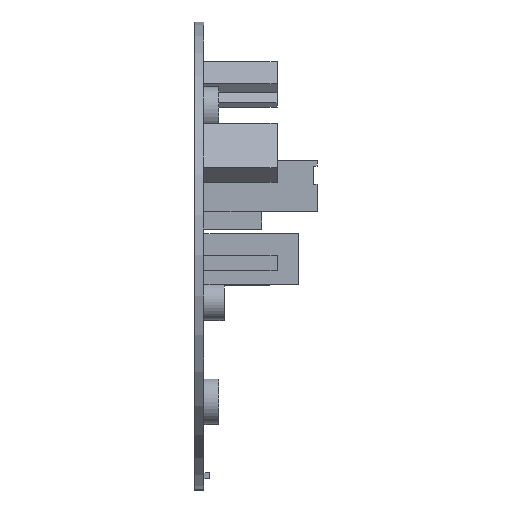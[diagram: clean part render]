
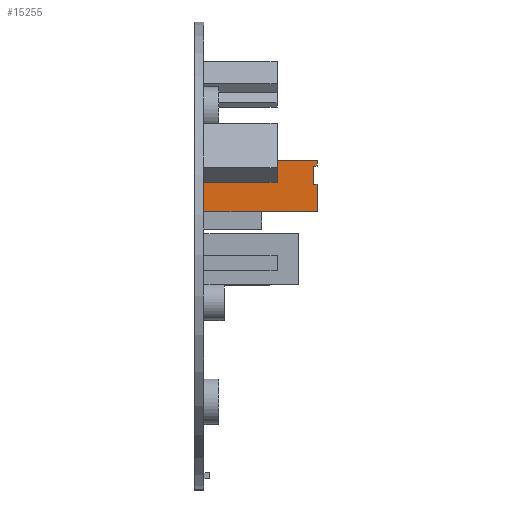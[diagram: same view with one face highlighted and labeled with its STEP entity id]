
A CAD part, top view. The second image highlights one B-rep face of the part: STEP entity #15255.
In plain terms, the highlighted planar face has unit normal (0, 0, 1).
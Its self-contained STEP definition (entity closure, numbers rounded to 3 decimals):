
#15066 = VERTEX_POINT('',#15067);
#15067 = CARTESIAN_POINT('',(0.75,38.,46.6));
#15074 = PLANE('',#15075);
#15075 = AXIS2_PLACEMENT_3D('',#15076,#15077,#15078);
#15076 = CARTESIAN_POINT('',(0.75,38.,44.));
#15077 = DIRECTION('',(1.,0.,0.));
#15078 = DIRECTION('',(0.,0.,1.));
#15086 = PLANE('',#15087);
#15087 = AXIS2_PLACEMENT_3D('',#15088,#15089,#15090);
#15088 = CARTESIAN_POINT('',(0.75,38.,44.));
#15089 = DIRECTION('',(0.,1.,0.));
#15090 = DIRECTION('',(0.,0.,1.));
#15127 = VERTEX_POINT('',#15128);
#15128 = CARTESIAN_POINT('',(0.75,45.,46.6));
#15142 = PLANE('',#15143);
#15143 = AXIS2_PLACEMENT_3D('',#15144,#15145,#15146);
#15144 = CARTESIAN_POINT('',(0.75,45.,44.));
#15145 = DIRECTION('',(0.,1.,0.));
#15146 = DIRECTION('',(0.,0.,1.));
#15154 = EDGE_CURVE('',#15066,#15127,#15155,.T.);
#15155 = SURFACE_CURVE('',#15156,(#15160,#15167),.PCURVE_S1.);
#15156 = LINE('',#15157,#15158);
#15157 = CARTESIAN_POINT('',(0.75,38.,46.6));
#15158 = VECTOR('',#15159,1.);
#15159 = DIRECTION('',(0.,1.,0.));
#15160 = PCURVE('',#15074,#15161);
#15161 = DEFINITIONAL_REPRESENTATION('',(#15162),#15166);
#15162 = LINE('',#15163,#15164);
#15163 = CARTESIAN_POINT('',(2.6,0.));
#15164 = VECTOR('',#15165,1.);
#15165 = DIRECTION('',(0.,-1.));
#15166 = ( GEOMETRIC_REPRESENTATION_CONTEXT(2) 
PARAMETRIC_REPRESENTATION_CONTEXT() REPRESENTATION_CONTEXT('2D SPACE',''
  ) );
#15167 = PCURVE('',#15168,#15173);
#15168 = PLANE('',#15169);
#15169 = AXIS2_PLACEMENT_3D('',#15170,#15171,#15172);
#15170 = CARTESIAN_POINT('',(0.75,38.,46.6));
#15171 = DIRECTION('',(0.,0.,1.));
#15172 = DIRECTION('',(1.,0.,0.));
#15173 = DEFINITIONAL_REPRESENTATION('',(#15174),#15178);
#15174 = LINE('',#15175,#15176);
#15175 = CARTESIAN_POINT('',(0.,0.));
#15176 = VECTOR('',#15177,1.);
#15177 = DIRECTION('',(0.,1.));
#15178 = ( GEOMETRIC_REPRESENTATION_CONTEXT(2) 
PARAMETRIC_REPRESENTATION_CONTEXT() REPRESENTATION_CONTEXT('2D SPACE',''
  ) );
#15207 = EDGE_CURVE('',#15066,#15208,#15210,.T.);
#15208 = VERTEX_POINT('',#15209);
#15209 = CARTESIAN_POINT('',(16.25,38.,46.6));
#15210 = SURFACE_CURVE('',#15211,(#15215,#15222),.PCURVE_S1.);
#15211 = LINE('',#15212,#15213);
#15212 = CARTESIAN_POINT('',(0.75,38.,46.6));
#15213 = VECTOR('',#15214,1.);
#15214 = DIRECTION('',(1.,0.,0.));
#15215 = PCURVE('',#15086,#15216);
#15216 = DEFINITIONAL_REPRESENTATION('',(#15217),#15221);
#15217 = LINE('',#15218,#15219);
#15218 = CARTESIAN_POINT('',(2.6,0.));
#15219 = VECTOR('',#15220,1.);
#15220 = DIRECTION('',(0.,1.));
#15221 = ( GEOMETRIC_REPRESENTATION_CONTEXT(2) 
PARAMETRIC_REPRESENTATION_CONTEXT() REPRESENTATION_CONTEXT('2D SPACE',''
  ) );
#15222 = PCURVE('',#15168,#15223);
#15223 = DEFINITIONAL_REPRESENTATION('',(#15224),#15228);
#15224 = LINE('',#15225,#15226);
#15225 = CARTESIAN_POINT('',(0.,0.));
#15226 = VECTOR('',#15227,1.);
#15227 = DIRECTION('',(1.,0.));
#15228 = ( GEOMETRIC_REPRESENTATION_CONTEXT(2) 
PARAMETRIC_REPRESENTATION_CONTEXT() REPRESENTATION_CONTEXT('2D SPACE',''
  ) );
#15244 = PLANE('',#15245);
#15245 = AXIS2_PLACEMENT_3D('',#15246,#15247,#15248);
#15246 = CARTESIAN_POINT('',(16.25,38.,44.));
#15247 = DIRECTION('',(1.,0.,0.));
#15248 = DIRECTION('',(0.,0.,1.));
#15255 = ADVANCED_FACE('',(#15256),#15168,.T.);
#15256 = FACE_BOUND('',#15257,.T.);
#15257 = EDGE_LOOP('',(#15258,#15281,#15282,#15283,#15306,#15332,#15358,
    #15384));
#15258 = ORIENTED_EDGE('',*,*,#15259,.F.);
#15259 = EDGE_CURVE('',#15127,#15260,#15262,.T.);
#15260 = VERTEX_POINT('',#15261);
#15261 = CARTESIAN_POINT('',(16.25,45.,46.6));
#15262 = SURFACE_CURVE('',#15263,(#15267,#15274),.PCURVE_S1.);
#15263 = LINE('',#15264,#15265);
#15264 = CARTESIAN_POINT('',(0.75,45.,46.6));
#15265 = VECTOR('',#15266,1.);
#15266 = DIRECTION('',(1.,0.,0.));
#15267 = PCURVE('',#15168,#15268);
#15268 = DEFINITIONAL_REPRESENTATION('',(#15269),#15273);
#15269 = LINE('',#15270,#15271);
#15270 = CARTESIAN_POINT('',(0.,7.));
#15271 = VECTOR('',#15272,1.);
#15272 = DIRECTION('',(1.,0.));
#15273 = ( GEOMETRIC_REPRESENTATION_CONTEXT(2) 
PARAMETRIC_REPRESENTATION_CONTEXT() REPRESENTATION_CONTEXT('2D SPACE',''
  ) );
#15274 = PCURVE('',#15142,#15275);
#15275 = DEFINITIONAL_REPRESENTATION('',(#15276),#15280);
#15276 = LINE('',#15277,#15278);
#15277 = CARTESIAN_POINT('',(2.6,0.));
#15278 = VECTOR('',#15279,1.);
#15279 = DIRECTION('',(0.,1.));
#15280 = ( GEOMETRIC_REPRESENTATION_CONTEXT(2) 
PARAMETRIC_REPRESENTATION_CONTEXT() REPRESENTATION_CONTEXT('2D SPACE',''
  ) );
#15281 = ORIENTED_EDGE('',*,*,#15154,.F.);
#15282 = ORIENTED_EDGE('',*,*,#15207,.T.);
#15283 = ORIENTED_EDGE('',*,*,#15284,.T.);
#15284 = EDGE_CURVE('',#15208,#15285,#15287,.T.);
#15285 = VERTEX_POINT('',#15286);
#15286 = CARTESIAN_POINT('',(16.25,41.75,46.6));
#15287 = SURFACE_CURVE('',#15288,(#15292,#15299),.PCURVE_S1.);
#15288 = LINE('',#15289,#15290);
#15289 = CARTESIAN_POINT('',(16.25,38.,46.6));
#15290 = VECTOR('',#15291,1.);
#15291 = DIRECTION('',(0.,1.,0.));
#15292 = PCURVE('',#15168,#15293);
#15293 = DEFINITIONAL_REPRESENTATION('',(#15294),#15298);
#15294 = LINE('',#15295,#15296);
#15295 = CARTESIAN_POINT('',(15.5,0.));
#15296 = VECTOR('',#15297,1.);
#15297 = DIRECTION('',(0.,1.));
#15298 = ( GEOMETRIC_REPRESENTATION_CONTEXT(2) 
PARAMETRIC_REPRESENTATION_CONTEXT() REPRESENTATION_CONTEXT('2D SPACE',''
  ) );
#15299 = PCURVE('',#15244,#15300);
#15300 = DEFINITIONAL_REPRESENTATION('',(#15301),#15305);
#15301 = LINE('',#15302,#15303);
#15302 = CARTESIAN_POINT('',(2.6,0.));
#15303 = VECTOR('',#15304,1.);
#15304 = DIRECTION('',(0.,-1.));
#15305 = ( GEOMETRIC_REPRESENTATION_CONTEXT(2) 
PARAMETRIC_REPRESENTATION_CONTEXT() REPRESENTATION_CONTEXT('2D SPACE',''
  ) );
#15306 = ORIENTED_EDGE('',*,*,#15307,.T.);
#15307 = EDGE_CURVE('',#15285,#15308,#15310,.T.);
#15308 = VERTEX_POINT('',#15309);
#15309 = CARTESIAN_POINT('',(15.75,41.75,46.6));
#15310 = SURFACE_CURVE('',#15311,(#15315,#15321),.PCURVE_S1.);
#15311 = LINE('',#15312,#15313);
#15312 = CARTESIAN_POINT('',(8.25,41.75,46.6));
#15313 = VECTOR('',#15314,1.);
#15314 = DIRECTION('',(-1.,0.,0.));
#15315 = PCURVE('',#15168,#15316);
#15316 = DEFINITIONAL_REPRESENTATION('',(#15317),#15320);
#15317 = B_SPLINE_CURVE_WITH_KNOTS('',1,(#15318,#15319),.UNSPECIFIED.,
  .F.,.F.,(2,2),(-9.55,-7.2),.PIECEWISE_BEZIER_KNOTS.);
#15318 = CARTESIAN_POINT('',(17.05,3.75));
#15319 = CARTESIAN_POINT('',(14.7,3.75));
#15320 = ( GEOMETRIC_REPRESENTATION_CONTEXT(2) 
PARAMETRIC_REPRESENTATION_CONTEXT() REPRESENTATION_CONTEXT('2D SPACE',''
  ) );
#15321 = PCURVE('',#15322,#15327);
#15322 = PLANE('',#15323);
#15323 = AXIS2_PLACEMENT_3D('',#15324,#15325,#15326);
#15324 = CARTESIAN_POINT('',(15.75,41.75,43.));
#15325 = DIRECTION('',(0.,1.,0.));
#15326 = DIRECTION('',(0.,0.,1.));
#15327 = DEFINITIONAL_REPRESENTATION('',(#15328),#15331);
#15328 = B_SPLINE_CURVE_WITH_KNOTS('',1,(#15329,#15330),.UNSPECIFIED.,
  .F.,.F.,(2,2),(-9.55,-7.2),.PIECEWISE_BEZIER_KNOTS.);
#15329 = CARTESIAN_POINT('',(3.6,2.05));
#15330 = CARTESIAN_POINT('',(3.6,-0.3));
#15331 = ( GEOMETRIC_REPRESENTATION_CONTEXT(2) 
PARAMETRIC_REPRESENTATION_CONTEXT() REPRESENTATION_CONTEXT('2D SPACE',''
  ) );
#15332 = ORIENTED_EDGE('',*,*,#15333,.T.);
#15333 = EDGE_CURVE('',#15308,#15334,#15336,.T.);
#15334 = VERTEX_POINT('',#15335);
#15335 = CARTESIAN_POINT('',(15.75,44.25,46.6));
#15336 = SURFACE_CURVE('',#15337,(#15341,#15347),.PCURVE_S1.);
#15337 = LINE('',#15338,#15339);
#15338 = CARTESIAN_POINT('',(15.75,39.875,46.6));
#15339 = VECTOR('',#15340,1.);
#15340 = DIRECTION('',(0.,1.,0.));
#15341 = PCURVE('',#15168,#15342);
#15342 = DEFINITIONAL_REPRESENTATION('',(#15343),#15346);
#15343 = B_SPLINE_CURVE_WITH_KNOTS('',1,(#15344,#15345),.UNSPECIFIED.,
  .F.,.F.,(2,2),(1.625,4.625),.PIECEWISE_BEZIER_KNOTS.);
#15344 = CARTESIAN_POINT('',(15.,3.5));
#15345 = CARTESIAN_POINT('',(15.,6.5));
#15346 = ( GEOMETRIC_REPRESENTATION_CONTEXT(2) 
PARAMETRIC_REPRESENTATION_CONTEXT() REPRESENTATION_CONTEXT('2D SPACE',''
  ) );
#15347 = PCURVE('',#15348,#15353);
#15348 = PLANE('',#15349);
#15349 = AXIS2_PLACEMENT_3D('',#15350,#15351,#15352);
#15350 = CARTESIAN_POINT('',(15.75,41.75,43.));
#15351 = DIRECTION('',(1.,0.,0.));
#15352 = DIRECTION('',(0.,0.,1.));
#15353 = DEFINITIONAL_REPRESENTATION('',(#15354),#15357);
#15354 = B_SPLINE_CURVE_WITH_KNOTS('',1,(#15355,#15356),.UNSPECIFIED.,
  .F.,.F.,(2,2),(1.625,4.625),.PIECEWISE_BEZIER_KNOTS.);
#15355 = CARTESIAN_POINT('',(3.6,0.25));
#15356 = CARTESIAN_POINT('',(3.6,-2.75));
#15357 = ( GEOMETRIC_REPRESENTATION_CONTEXT(2) 
PARAMETRIC_REPRESENTATION_CONTEXT() REPRESENTATION_CONTEXT('2D SPACE',''
  ) );
#15358 = ORIENTED_EDGE('',*,*,#15359,.F.);
#15359 = EDGE_CURVE('',#15360,#15334,#15362,.T.);
#15360 = VERTEX_POINT('',#15361);
#15361 = CARTESIAN_POINT('',(16.25,44.25,46.6));
#15362 = SURFACE_CURVE('',#15363,(#15367,#15373),.PCURVE_S1.);
#15363 = LINE('',#15364,#15365);
#15364 = CARTESIAN_POINT('',(8.25,44.25,46.6));
#15365 = VECTOR('',#15366,1.);
#15366 = DIRECTION('',(-1.,0.,0.));
#15367 = PCURVE('',#15168,#15368);
#15368 = DEFINITIONAL_REPRESENTATION('',(#15369),#15372);
#15369 = B_SPLINE_CURVE_WITH_KNOTS('',1,(#15370,#15371),.UNSPECIFIED.,
  .F.,.F.,(2,2),(-9.55,-7.2),.PIECEWISE_BEZIER_KNOTS.);
#15370 = CARTESIAN_POINT('',(17.05,6.25));
#15371 = CARTESIAN_POINT('',(14.7,6.25));
#15372 = ( GEOMETRIC_REPRESENTATION_CONTEXT(2) 
PARAMETRIC_REPRESENTATION_CONTEXT() REPRESENTATION_CONTEXT('2D SPACE',''
  ) );
#15373 = PCURVE('',#15374,#15379);
#15374 = PLANE('',#15375);
#15375 = AXIS2_PLACEMENT_3D('',#15376,#15377,#15378);
#15376 = CARTESIAN_POINT('',(15.75,44.25,43.));
#15377 = DIRECTION('',(0.,1.,0.));
#15378 = DIRECTION('',(0.,0.,1.));
#15379 = DEFINITIONAL_REPRESENTATION('',(#15380),#15383);
#15380 = B_SPLINE_CURVE_WITH_KNOTS('',1,(#15381,#15382),.UNSPECIFIED.,
  .F.,.F.,(2,2),(-9.55,-7.2),.PIECEWISE_BEZIER_KNOTS.);
#15381 = CARTESIAN_POINT('',(3.6,2.05));
#15382 = CARTESIAN_POINT('',(3.6,-0.3));
#15383 = ( GEOMETRIC_REPRESENTATION_CONTEXT(2) 
PARAMETRIC_REPRESENTATION_CONTEXT() REPRESENTATION_CONTEXT('2D SPACE',''
  ) );
#15384 = ORIENTED_EDGE('',*,*,#15385,.T.);
#15385 = EDGE_CURVE('',#15360,#15260,#15386,.T.);
#15386 = SURFACE_CURVE('',#15387,(#15391,#15398),.PCURVE_S1.);
#15387 = LINE('',#15388,#15389);
#15388 = CARTESIAN_POINT('',(16.25,38.,46.6));
#15389 = VECTOR('',#15390,1.);
#15390 = DIRECTION('',(0.,1.,0.));
#15391 = PCURVE('',#15168,#15392);
#15392 = DEFINITIONAL_REPRESENTATION('',(#15393),#15397);
#15393 = LINE('',#15394,#15395);
#15394 = CARTESIAN_POINT('',(15.5,0.));
#15395 = VECTOR('',#15396,1.);
#15396 = DIRECTION('',(0.,1.));
#15397 = ( GEOMETRIC_REPRESENTATION_CONTEXT(2) 
PARAMETRIC_REPRESENTATION_CONTEXT() REPRESENTATION_CONTEXT('2D SPACE',''
  ) );
#15398 = PCURVE('',#15399,#15404);
#15399 = PLANE('',#15400);
#15400 = AXIS2_PLACEMENT_3D('',#15401,#15402,#15403);
#15401 = CARTESIAN_POINT('',(16.25,38.,44.));
#15402 = DIRECTION('',(1.,0.,0.));
#15403 = DIRECTION('',(0.,0.,1.));
#15404 = DEFINITIONAL_REPRESENTATION('',(#15405),#15409);
#15405 = LINE('',#15406,#15407);
#15406 = CARTESIAN_POINT('',(2.6,0.));
#15407 = VECTOR('',#15408,1.);
#15408 = DIRECTION('',(0.,-1.));
#15409 = ( GEOMETRIC_REPRESENTATION_CONTEXT(2) 
PARAMETRIC_REPRESENTATION_CONTEXT() REPRESENTATION_CONTEXT('2D SPACE',''
  ) );
